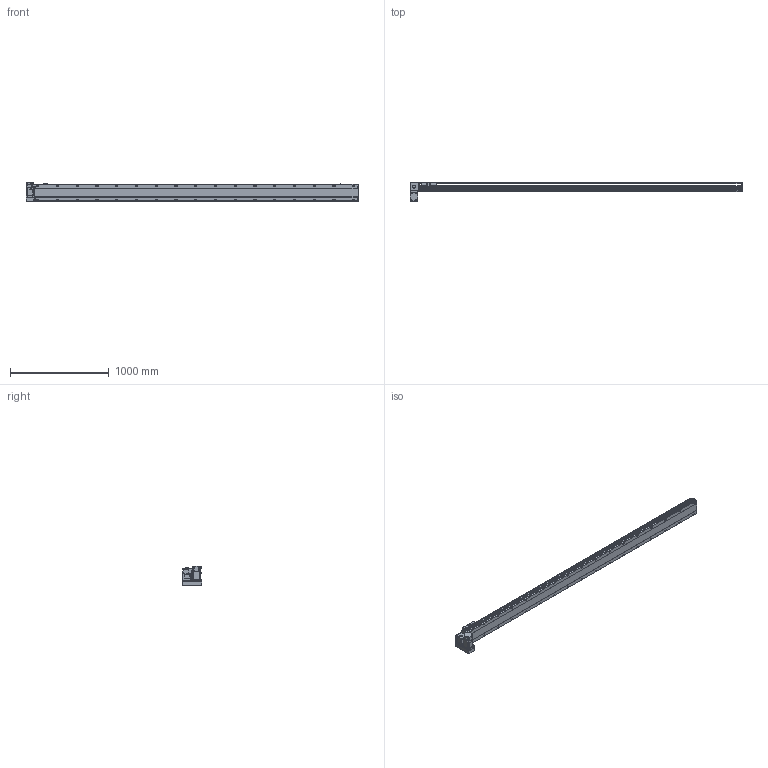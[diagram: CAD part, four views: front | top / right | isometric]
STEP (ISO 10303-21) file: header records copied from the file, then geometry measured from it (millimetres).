
FILE_DESCRIPTION( ( 'STEP AP214' ), '1' );
FILE_NAME( 'x:/temp/worker_4/temp/exporttempdir_2248_367_xWvKN/format_0/PBS170-P40-S3000-LD-T75-C1-N(0).stp', '2022-06-07T07:57:00', ( 'License CC BY-ND 4.0' ), ( 'CADENAS' ), ' ', 'PARTsolutions', ' ' );
FILE_SCHEMA( ( 'AUTOMOTIVE_DESIGN { 1 0 10303 214 1 1 1 1 }' ) );
Length unit declared in the file: millimetre
Products named in the file (7): PBS170-P40-S3000-LD-T75-C1-N(0); _PBS170-S3000()_body; _PBS170T-LD_motors; _T75-p1; _PBS170_sliser; _PBS170_plant; _PBS170_sensor
Assembly tree (8 placements, depth 2):
  PBS170-P40-S3000-LD-T75-C1-N(0)
    _PBS170-S3000()_body
    _PBS170T-LD_motors
    _T75-p1
    _PBS170_sliser
    _PBS170_plant
    _PBS170_sensor  x3
Bounding box: 3363 x 201 x 197.3 mm (x, y, z)
Volume: 25243265.2 mm3; surface area: 3158626.8 mm2
Topology: 8 solids, 8 shells, 1226 faces, 3235 edges, 2108 vertices
Faces by surface type: plane 741, cylinder 411, cone 64, sphere 8, torus 2
Full cylindrical faces by diameter (mm): 3.242 x4, 4 x2, 4.4 x4, 4.5 x6, 4.917 x4, 6 x9, 6.647 x42, 7 x2, 7.5 x4, 8 x8, 8.5 x34, 10 x4, 10.5 x34, 11 x2, 30 x2, 40 x1, 70 x1
Entity records: 45518 total; most frequent: CARTESIAN_POINT 7733, DIRECTION 5930, ORIENTED_EDGE 5568, EDGE_CURVE 2784, AXIS2_PLACEMENT_3D 2107, VERTEX_POINT 1946, LINE 1716, VECTOR 1716
